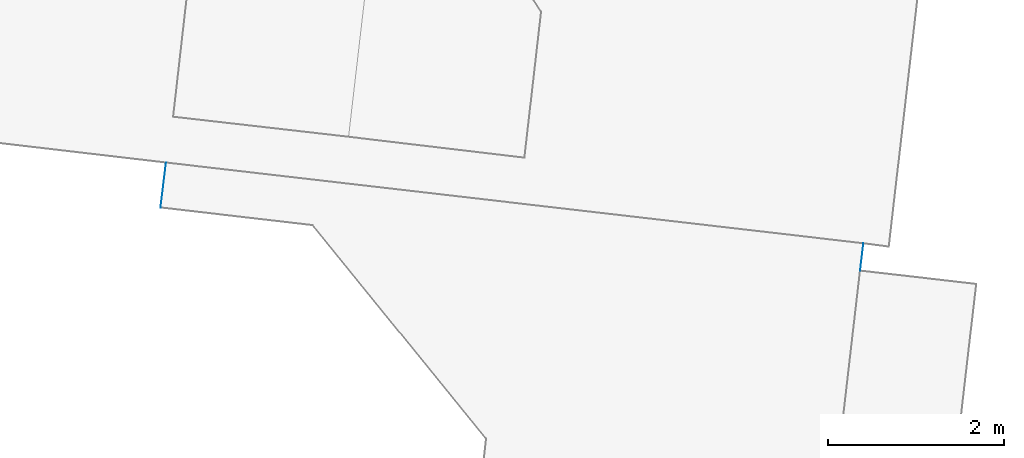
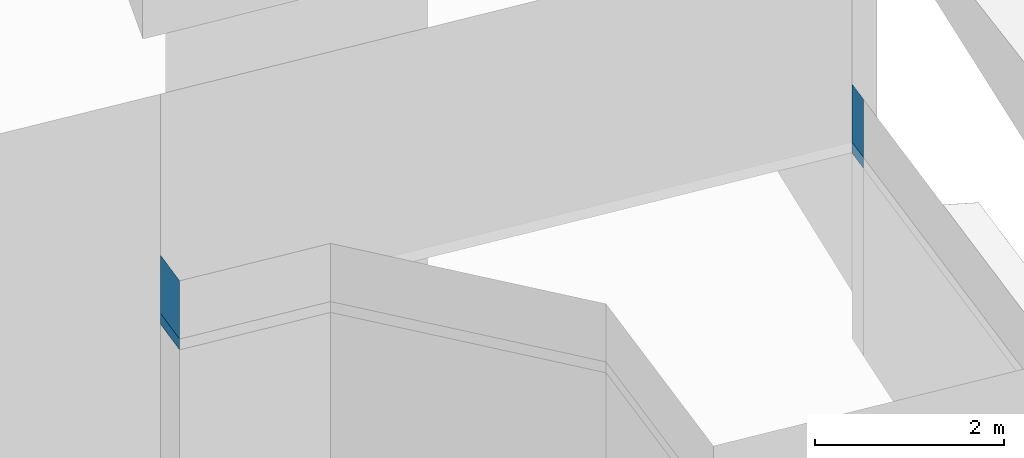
# Not in any storey, part 50 of 57: 6 walls.
"""IFC4 building model written with IfcOpenShell, lengths in metres."""

from ifc_helpers import new_model, entity, si_unit, converted_unit, frame, origin, place, context, subcontext, project, spatial, face_set, surface_model, element, save


model = new_model("IFC4")

# Units and contexts
model_context = context("Model", 3, precision=1e-05, world=origin())
body_context = subcontext(model_context, "Body", "Model", "MODEL_VIEW")
ifc_project = project(units=[converted_unit("PLANEANGLEUNIT", "DEGREE", entity("IfcRatioMeasure", 0.0174532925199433), si_unit("PLANEANGLEUNIT", "RADIAN"), dimensions=[0, 0, 0, 0, 0, 0, 0]), si_unit("AREAUNIT", "SQUARE_METRE"), si_unit("LENGTHUNIT", "METRE")], contexts=[model_context])

# Site, building
site_placement = place(None, origin())
site = spatial("IfcSite", under=ifc_project, at=site_placement, Name="_site")
building_placement = place(site_placement, origin())
building = spatial("IfcBuilding", under=site, at=building_placement, Name="_building")

# Walls
wall_1_placement = place(building_placement, origin())
element("IfcWall", 1, at=wall_1_placement, inside=building, Name="Wall", PredefinedType="NOTDEFINED", context=body_context, shape_type="SurfaceModel", body=[
    surface_model("IfcFaceBasedSurfaceModel", [(242.324, 146.943, 113.32), (242.386, 147.452, 113.32), (242.386, 147.452, 113.18), (242.324, 146.943, 113.18)], [face_set([[[0, 1, 2, 3]]])]),
])
wall_2_placement = place(building_placement, origin())
element("IfcWall", 2, at=wall_2_placement, inside=building, Name="Wall", PredefinedType="NOTDEFINED", context=body_context, shape_type="SurfaceModel", body=[
    surface_model("IfcFaceBasedSurfaceModel", [(250.289, 146.537, 113.32), (250.252, 146.227, 113.32), (250.252, 146.227, 113.18), (250.289, 146.537, 113.18)], [face_set([[[0, 1, 2, 3]]])]),
])
wall_3_placement = place(building_placement, origin())
element("IfcWall", 3, at=wall_3_placement, inside=building, Name="Wall", PredefinedType="NOTDEFINED", context=body_context, shape_type="SurfaceModel", body=[
    surface_model("IfcFaceBasedSurfaceModel", [(250.289, 146.537, 113.32), (250.252, 146.227, 113.32), (250.252, 146.227, 114.07), (250.289, 146.537, 114.07)], [face_set([[[0, 1, 2, 3]]])]),
])
for number, where, name in (
    (4, (0.0, 0.0, 0.0), "Wall"),
    (5, (0.0, 0.0, 0.0), "Wall"),
):
    element("IfcWall", number, at=place(building_placement, frame(where)), inside=building, Name=name, PredefinedType="NOTDEFINED", context=body_context, shape_type="SurfaceModel", body=[
        surface_model("IfcFaceBasedSurfaceModel", [(242.324, 146.943, 113.32), (242.386, 147.452, 113.32), (242.386, 147.452, 114.07), (242.324, 146.943, 114.07)], [face_set([[[0, 1, 2, 3]]])]),
    ])
wall_4_placement = place(building_placement, origin())
element("IfcWall", 6, at=wall_4_placement, inside=building, Name="Wall", PredefinedType="NOTDEFINED", context=body_context, shape_type="SurfaceModel", body=[
    surface_model("IfcFaceBasedSurfaceModel", [(250.289, 146.537, 113.32), (250.252, 146.227, 113.32), (250.252, 146.227, 114.07), (250.289, 146.537, 114.07)], [face_set([[[0, 1, 2, 3]]])]),
])

save(model, "model.ifc")
